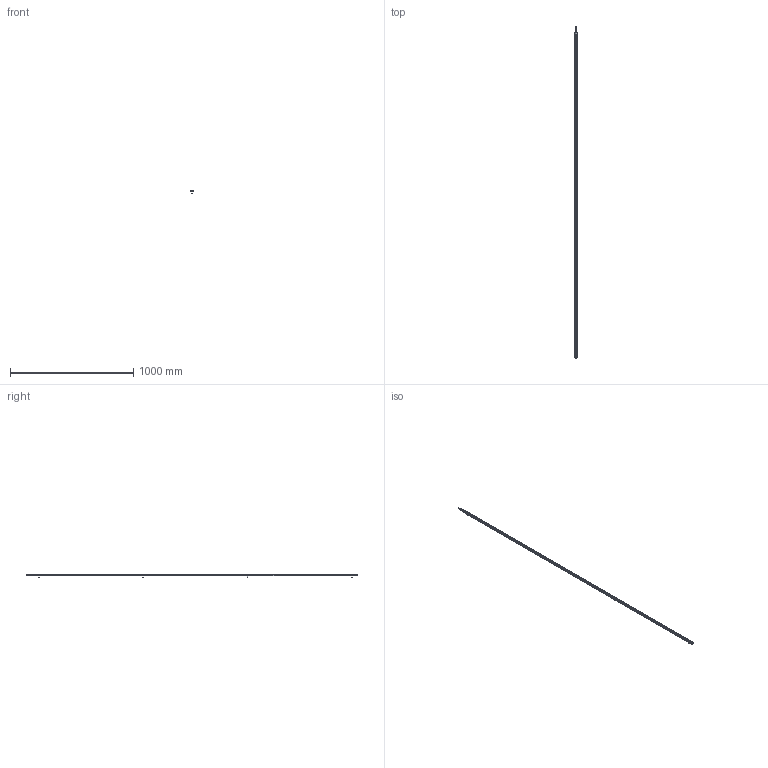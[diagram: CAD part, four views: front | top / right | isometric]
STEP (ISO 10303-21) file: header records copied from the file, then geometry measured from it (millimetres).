
FILE_DESCRIPTION (( 'STEP AP214' ), '1' );
FILE_NAME ('ILGA-B-K2-2640mm.STEP', '2026-04-24T23:05:52', ( '' ), ( '' ), 'SwSTEP 2.0', 'SolidWorks 2025', '' );
FILE_SCHEMA (( 'AUTOMOTIVE_DESIGN' ));
Length unit declared in the file: millimetre
Products named in the file (1): ILGA-B-K2-2640mm
Bounding box: 22.4 x 2694.5 x 25.7 mm (x, y, z)
Surface area: 359229.1 mm2 (no closed solid volume)
Topology: 0 solids, 17 shells, 975 faces, 2532 edges, 1571 vertices
Faces by surface type: cylinder 403, plane 364, cone 86, bspline 56, torus 50, sphere 16
Entity records: 42888 total; most frequent: CARTESIAN_POINT 8692, ORIENTED_EDGE 4945, DIRECTION 4896, EDGE_CURVE 2480, AXIS2_PLACEMENT_3D 1879, VERTEX_POINT 1571, VECTOR 1138, LINE 1138
